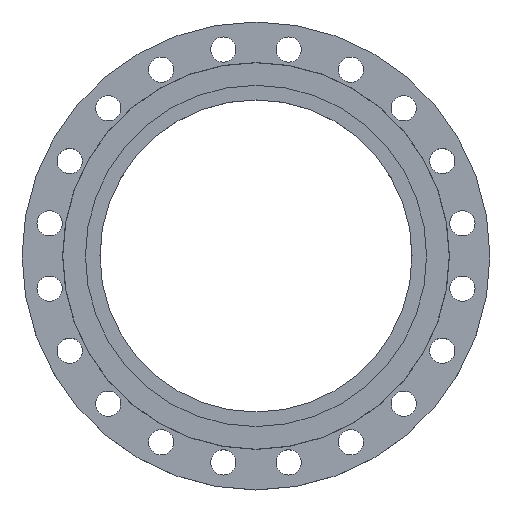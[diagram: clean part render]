
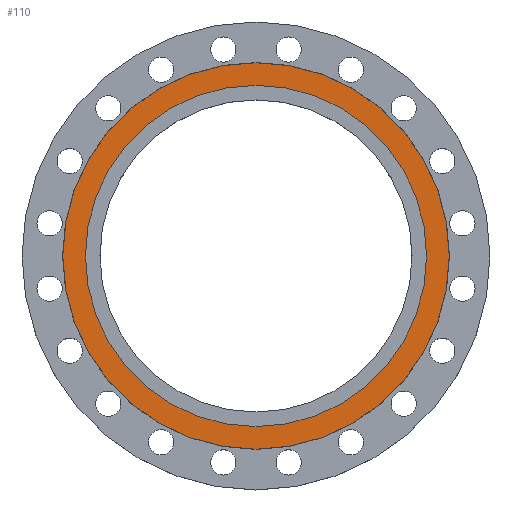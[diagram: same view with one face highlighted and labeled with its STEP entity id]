
A CAD part, top view. The second image highlights one B-rep face of the part: STEP entity #110.
In plain terms, the highlighted planar face has unit normal (0, 0, 1).
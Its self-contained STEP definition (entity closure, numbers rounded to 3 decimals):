
#110 = ADVANCED_FACE ( 'NONE', ( #1104, #1102 ), #1101, .T. ) ;
#155 = EDGE_CURVE ( 'NONE', #1465, #1327, #1178, .T. ) ;
#170 = CARTESIAN_POINT ( 'NONE',  ( 367.5, 0., 0. ) ) ;
#227 = EDGE_CURVE ( 'NONE', #1721, #1911, #1217, .T. ) ;
#274 = CARTESIAN_POINT ( 'NONE',  ( -367.5, 0., 0. ) ) ;
#436 = EDGE_CURVE ( 'NONE', #1327, #1465, #556, .T. ) ;
#472 = CARTESIAN_POINT ( 'NONE',  ( -324.5, 0., 0. ) ) ;
#556 = CIRCLE ( 'NONE', #569, 324.5 ) ;
#569 = AXIS2_PLACEMENT_3D ( 'NONE', #951, #950, #948 ) ;
#570 = DIRECTION ( 'NONE',  ( -1., 0., 0. ) ) ;
#571 = DIRECTION ( 'NONE',  ( 0., 0., -1. ) ) ;
#572 = CARTESIAN_POINT ( 'NONE',  ( 0., 0., 0. ) ) ;
#578 = CARTESIAN_POINT ( 'NONE',  ( 324.5, 0., 0. ) ) ;
#879 = AXIS2_PLACEMENT_3D ( 'NONE', #1078, #1076, #1075 ) ;
#948 = DIRECTION ( 'NONE',  ( -1., 0., 0. ) ) ;
#950 = DIRECTION ( 'NONE',  ( 0., 0., -1. ) ) ;
#951 = CARTESIAN_POINT ( 'NONE',  ( 0., 0., 0. ) ) ;
#1041 = DIRECTION ( 'NONE',  ( -1., 0., 0. ) ) ;
#1042 = DIRECTION ( 'NONE',  ( 0., 0., -1. ) ) ;
#1043 = CARTESIAN_POINT ( 'NONE',  ( 0., 0., 0. ) ) ;
#1075 = DIRECTION ( 'NONE',  ( -1., 0., 0. ) ) ;
#1076 = DIRECTION ( 'NONE',  ( 0., 0., -1. ) ) ;
#1078 = CARTESIAN_POINT ( 'NONE',  ( 0., 0., 0. ) ) ;
#1097 = DIRECTION ( 'NONE',  ( 1., 0., 0. ) ) ;
#1098 = DIRECTION ( 'NONE',  ( 0., 0., 1. ) ) ;
#1099 = CARTESIAN_POINT ( 'NONE',  ( 0., 0., 0. ) ) ;
#1101 = PLANE ( 'NONE',  #1169 ) ;
#1102 = FACE_BOUND ( 'NONE', #1356, .T. ) ;
#1104 = FACE_OUTER_BOUND ( 'NONE', #1466, .T. ) ;
#1169 = AXIS2_PLACEMENT_3D ( 'NONE', #1099, #1098, #1097 ) ;
#1178 = CIRCLE ( 'NONE', #879, 324.5 ) ;
#1217 = CIRCLE ( 'NONE', #1219, 367.5 ) ;
#1219 = AXIS2_PLACEMENT_3D ( 'NONE', #1043, #1042, #1041 ) ;
#1327 = VERTEX_POINT ( 'NONE', #578 ) ;
#1339 = EDGE_CURVE ( 'NONE', #1911, #1721, #1373, .T. ) ;
#1356 = EDGE_LOOP ( 'NONE', ( #1753, #1752 ) ) ;
#1373 = CIRCLE ( 'NONE', #1379, 367.5 ) ;
#1379 = AXIS2_PLACEMENT_3D ( 'NONE', #572, #571, #570 ) ;
#1465 = VERTEX_POINT ( 'NONE', #472 ) ;
#1466 = EDGE_LOOP ( 'NONE', ( #1756, #1755 ) ) ;
#1721 = VERTEX_POINT ( 'NONE', #274 ) ;
#1752 = ORIENTED_EDGE ( 'NONE', *, *, #436, .T. ) ;
#1753 = ORIENTED_EDGE ( 'NONE', *, *, #155, .T. ) ;
#1755 = ORIENTED_EDGE ( 'NONE', *, *, #1339, .F. ) ;
#1756 = ORIENTED_EDGE ( 'NONE', *, *, #227, .F. ) ;
#1911 = VERTEX_POINT ( 'NONE', #170 ) ;
